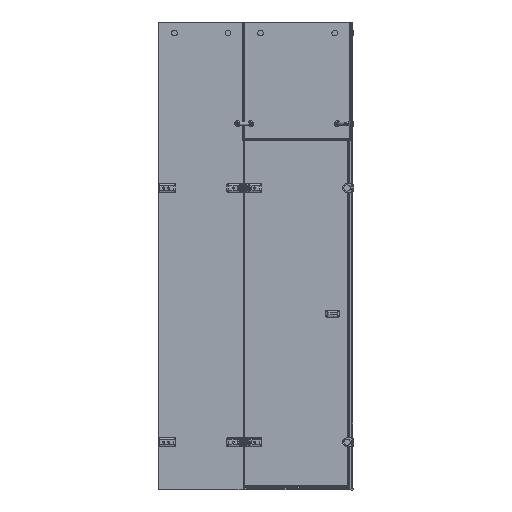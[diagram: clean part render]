
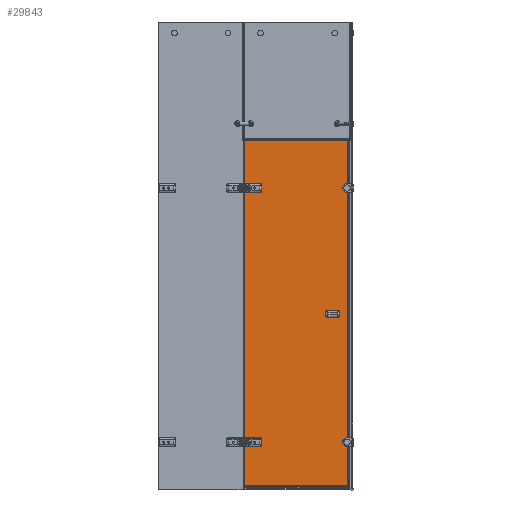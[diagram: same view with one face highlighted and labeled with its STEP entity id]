
A CAD part, left-side view. The second image highlights one B-rep face of the part: STEP entity #29843.
In plain terms, the highlighted planar face has unit normal (-1, 0, 0).
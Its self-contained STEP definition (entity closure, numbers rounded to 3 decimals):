
#461=FACE_BOUND($,#4904,.T.);
#462=FACE_BOUND($,#4905,.T.);
#463=FACE_BOUND($,#4906,.T.);
#464=FACE_BOUND($,#4907,.T.);
#465=FACE_BOUND($,#4908,.T.);
#1194=PLANE($,#32190);
#4904=EDGE_LOOP($,(#23265));
#4905=EDGE_LOOP($,(#23266));
#4906=EDGE_LOOP($,(#23267));
#4907=EDGE_LOOP($,(#23268));
#4908=EDGE_LOOP($,(#23269,#23270,#23271,#23272,#23273,#23274,#23275,#23276,
#23277,#23278,#23279,#23280,#23281,#23282,#23283,#23284));
#6436=LINE($,#58831,#8861);
#7163=LINE($,#62213,#9588);
#7296=LINE($,#63549,#9721);
#7310=LINE($,#63606,#9735);
#7312=LINE($,#63618,#9737);
#7313=LINE($,#63622,#9738);
#7314=LINE($,#63625,#9739);
#7315=LINE($,#63627,#9740);
#7316=LINE($,#63631,#9741);
#7317=LINE($,#63635,#9742);
#7318=LINE($,#63637,#9743);
#7319=LINE($,#63638,#9744);
#8861=VECTOR($,#35440,1562.);
#9588=VECTOR($,#37465,279.249);
#9721=VECTOR($,#37916,648.747);
#9735=VECTOR($,#37964,2178.249);
#9737=VECTOR($,#37976,30.747);
#9738=VECTOR($,#37979,18.);
#9739=VECTOR($,#37982,30.747);
#9740=VECTOR($,#37983,30.747);
#9741=VECTOR($,#37986,18.);
#9742=VECTOR($,#37989,30.747);
#9743=VECTOR($,#37990,261.);
#9744=VECTOR($,#37991,648.747);
#11424=CIRCLE($,#32191,8.);
#11425=CIRCLE($,#32192,8.);
#11426=CIRCLE($,#32193,5.5);
#11427=CIRCLE($,#32194,5.5);
#11428=CIRCLE($,#32195,10.);
#11429=CIRCLE($,#32196,10.);
#11430=CIRCLE($,#32197,10.);
#11431=CIRCLE($,#32198,10.);
#12611=VERTEX_POINT($,#58828);
#12612=VERTEX_POINT($,#58830);
#13317=VERTEX_POINT($,#62210);
#13318=VERTEX_POINT($,#62212);
#13493=VERTEX_POINT($,#63548);
#13505=VERTEX_POINT($,#63605);
#13506=VERTEX_POINT($,#63609);
#13507=VERTEX_POINT($,#63611);
#13508=VERTEX_POINT($,#63613);
#13509=VERTEX_POINT($,#63615);
#13510=VERTEX_POINT($,#63617);
#13511=VERTEX_POINT($,#63619);
#13512=VERTEX_POINT($,#63621);
#13513=VERTEX_POINT($,#63623);
#13514=VERTEX_POINT($,#63626);
#13515=VERTEX_POINT($,#63628);
#13516=VERTEX_POINT($,#63630);
#13517=VERTEX_POINT($,#63632);
#13518=VERTEX_POINT($,#63634);
#13519=VERTEX_POINT($,#63636);
#15621=EDGE_CURVE($,#12612,#12611,#6436,.T.);
#16712=EDGE_CURVE($,#13318,#13317,#7163,.T.);
#16957=EDGE_CURVE($,#13493,#13318,#7296,.T.);
#16981=EDGE_CURVE($,#13505,#13493,#7310,.T.);
#16983=EDGE_CURVE($,#13506,#13506,#11424,.T.);
#16984=EDGE_CURVE($,#13507,#13507,#11425,.T.);
#16985=EDGE_CURVE($,#13508,#13508,#11426,.T.);
#16986=EDGE_CURVE($,#13509,#13509,#11427,.T.);
#16987=EDGE_CURVE($,#13317,#13510,#7312,.T.);
#16988=EDGE_CURVE($,#13511,#13510,#11428,.T.);
#16989=EDGE_CURVE($,#13511,#13512,#7313,.T.);
#16990=EDGE_CURVE($,#13513,#13512,#11429,.T.);
#16991=EDGE_CURVE($,#13513,#12612,#7314,.T.);
#16992=EDGE_CURVE($,#12611,#13514,#7315,.T.);
#16993=EDGE_CURVE($,#13515,#13514,#11430,.T.);
#16994=EDGE_CURVE($,#13515,#13516,#7316,.T.);
#16995=EDGE_CURVE($,#13517,#13516,#11431,.T.);
#16996=EDGE_CURVE($,#13517,#13518,#7317,.T.);
#16997=EDGE_CURVE($,#13518,#13519,#7318,.T.);
#16998=EDGE_CURVE($,#13519,#13505,#7319,.T.);
#23265=ORIENTED_EDGE($,*,*,#16983,.T.);
#23266=ORIENTED_EDGE($,*,*,#16984,.T.);
#23267=ORIENTED_EDGE($,*,*,#16985,.T.);
#23268=ORIENTED_EDGE($,*,*,#16986,.T.);
#23269=ORIENTED_EDGE($,*,*,#16957,.T.);
#23270=ORIENTED_EDGE($,*,*,#16712,.T.);
#23271=ORIENTED_EDGE($,*,*,#16987,.T.);
#23272=ORIENTED_EDGE($,*,*,#16988,.F.);
#23273=ORIENTED_EDGE($,*,*,#16989,.T.);
#23274=ORIENTED_EDGE($,*,*,#16990,.F.);
#23275=ORIENTED_EDGE($,*,*,#16991,.T.);
#23276=ORIENTED_EDGE($,*,*,#15621,.T.);
#23277=ORIENTED_EDGE($,*,*,#16992,.T.);
#23278=ORIENTED_EDGE($,*,*,#16993,.F.);
#23279=ORIENTED_EDGE($,*,*,#16994,.T.);
#23280=ORIENTED_EDGE($,*,*,#16995,.F.);
#23281=ORIENTED_EDGE($,*,*,#16996,.T.);
#23282=ORIENTED_EDGE($,*,*,#16997,.T.);
#23283=ORIENTED_EDGE($,*,*,#16998,.T.);
#23284=ORIENTED_EDGE($,*,*,#16981,.T.);
#29843=ADVANCED_FACE($,(#461,#462,#463,#464,#465),#1194,.T.);
#32190=AXIS2_PLACEMENT_3D($,#63608,#37966,#37967);
#32191=AXIS2_PLACEMENT_3D($,#63610,#37968,#37969);
#32192=AXIS2_PLACEMENT_3D($,#63612,#37970,#37971);
#32193=AXIS2_PLACEMENT_3D($,#63614,#37972,#37973);
#32194=AXIS2_PLACEMENT_3D($,#63616,#37974,#37975);
#32195=AXIS2_PLACEMENT_3D($,#63620,#37977,#37978);
#32196=AXIS2_PLACEMENT_3D($,#63624,#37980,#37981);
#32197=AXIS2_PLACEMENT_3D($,#63629,#37984,#37985);
#32198=AXIS2_PLACEMENT_3D($,#63633,#37987,#37988);
#35440=DIRECTION($,(0.,0.,-1.));
#37465=DIRECTION($,(0.,0.,-1.));
#37916=DIRECTION($,(0.,1.,0.));
#37964=DIRECTION($,(0.,0.,1.));
#37966=DIRECTION('center_axis',(-1.,0.,0.));
#37967=DIRECTION('ref_axis',(0.,-1.,0.));
#37968=DIRECTION('center_axis',(1.,0.,0.));
#37969=DIRECTION('ref_axis',(0.,1.,0.));
#37970=DIRECTION('center_axis',(1.,0.,0.));
#37971=DIRECTION('ref_axis',(0.,1.,0.));
#37972=DIRECTION('center_axis',(1.,0.,0.));
#37973=DIRECTION('ref_axis',(0.,1.,0.));
#37974=DIRECTION('center_axis',(1.,0.,0.));
#37975=DIRECTION('ref_axis',(0.,1.,0.));
#37976=DIRECTION($,(0.,-1.,0.));
#37977=DIRECTION('center_axis',(-1.,0.,0.));
#37978=DIRECTION('ref_axis',(0.,-0.707,0.707));
#37979=DIRECTION($,(0.,0.,-1.));
#37980=DIRECTION('center_axis',(-1.,0.,0.));
#37981=DIRECTION('ref_axis',(0.,-0.707,-0.707));
#37982=DIRECTION($,(0.,1.,0.));
#37983=DIRECTION($,(0.,-1.,0.));
#37984=DIRECTION('center_axis',(-1.,0.,0.));
#37985=DIRECTION('ref_axis',(0.,-0.707,0.707));
#37986=DIRECTION($,(0.,0.,-1.));
#37987=DIRECTION('center_axis',(-1.,0.,0.));
#37988=DIRECTION('ref_axis',(0.,-0.707,-0.707));
#37989=DIRECTION($,(0.,1.,0.));
#37990=DIRECTION($,(0.,0.,-1.));
#37991=DIRECTION($,(0.,-1.,0.));
#58828=CARTESIAN_POINT('',(1298.287,500.703,-195.056));
#58830=CARTESIAN_POINT('',(1298.287,500.703,1366.944));
#58831=CARTESIAN_POINT($,(1298.287,500.703,-204.056));
#62210=CARTESIAN_POINT('',(1298.287,500.703,1404.944));
#62212=CARTESIAN_POINT('',(1298.287,500.703,1684.194));
#62213=CARTESIAN_POINT($,(1298.287,500.703,1395.944));
#63548=CARTESIAN_POINT('',(1298.287,-148.044,1684.194));
#63549=CARTESIAN_POINT($,(1298.287,501.956,1684.194));
#63605=CARTESIAN_POINT('',(1298.287,-148.044,-494.056));
#63606=CARTESIAN_POINT($,(1298.287,-148.044,-494.056));
#63608=CARTESIAN_POINT('Origin',(1298.287,501.956,-494.056));
#63609=CARTESIAN_POINT('',(1298.287,428.956,1385.944));
#63610=CARTESIAN_POINT('Origin',(1298.287,436.956,1385.944));
#63611=CARTESIAN_POINT('',(1298.287,428.956,-214.056));
#63612=CARTESIAN_POINT('Origin',(1298.287,436.956,-214.056));
#63613=CARTESIAN_POINT('',(1298.287,-83.544,609.944));
#63614=CARTESIAN_POINT('Origin',(1298.287,-78.044,609.944));
#63615=CARTESIAN_POINT('',(1298.287,-83.544,581.944));
#63616=CARTESIAN_POINT('Origin',(1298.287,-78.044,581.944));
#63617=CARTESIAN_POINT('',(1298.287,469.956,1404.944));
#63618=CARTESIAN_POINT($,(1298.287,501.956,1404.944));
#63619=CARTESIAN_POINT('',(1298.287,459.956,1394.944));
#63620=CARTESIAN_POINT('Origin',(1298.287,469.956,1394.944));
#63621=CARTESIAN_POINT('',(1298.287,459.956,1376.944));
#63622=CARTESIAN_POINT($,(1298.287,459.956,455.444));
#63623=CARTESIAN_POINT('',(1298.287,469.956,1366.944));
#63624=CARTESIAN_POINT('Origin',(1298.287,469.956,1376.944));
#63625=CARTESIAN_POINT($,(1298.287,480.956,1366.944));
#63626=CARTESIAN_POINT('',(1298.287,469.956,-195.056));
#63627=CARTESIAN_POINT($,(1298.287,501.956,-195.056));
#63628=CARTESIAN_POINT('',(1298.287,459.956,-205.056));
#63629=CARTESIAN_POINT('Origin',(1298.287,469.956,-205.056));
#63630=CARTESIAN_POINT('',(1298.287,459.956,-223.056));
#63631=CARTESIAN_POINT($,(1298.287,459.956,-344.556));
#63632=CARTESIAN_POINT('',(1298.287,469.956,-233.056));
#63633=CARTESIAN_POINT('Origin',(1298.287,469.956,-223.056));
#63634=CARTESIAN_POINT('',(1298.287,500.703,-233.056));
#63635=CARTESIAN_POINT($,(1298.287,480.956,-233.056));
#63636=CARTESIAN_POINT('',(1298.287,500.703,-494.056));
#63637=CARTESIAN_POINT($,(1298.287,500.703,-224.056));
#63638=CARTESIAN_POINT($,(1298.287,501.956,-494.056));
